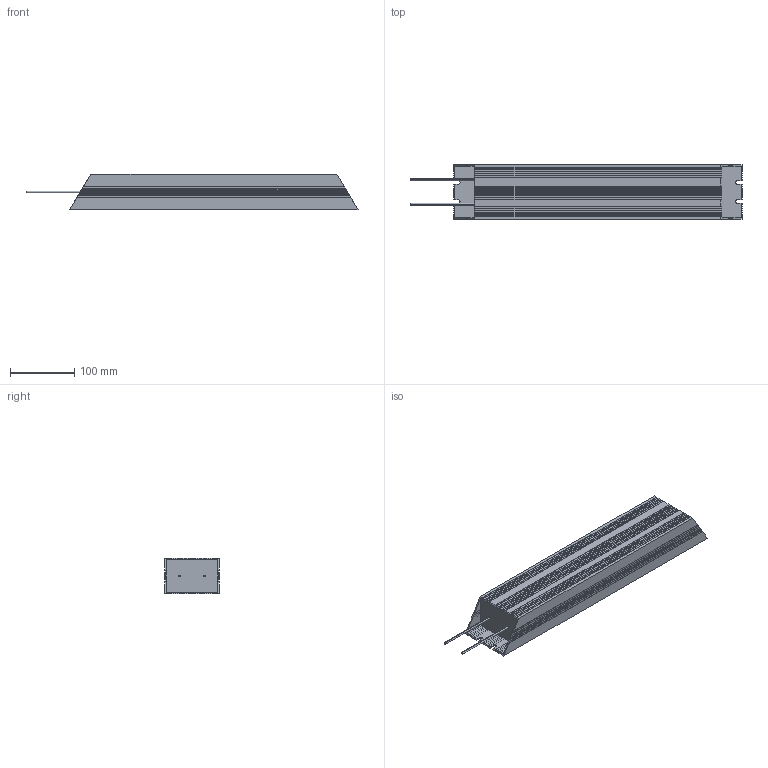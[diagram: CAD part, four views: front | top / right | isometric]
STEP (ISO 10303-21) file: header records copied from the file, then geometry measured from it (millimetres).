
FILE_DESCRIPTION (( 'STEP AP203' ), '1' );
FILE_NAME ('Ðåçèñòîð òîðìîçíîé _ IBRA-8-3000-IP54.STEP', '2025-03-27T13:11:22', ( '' ), ( '' ), 'SwSTEP 2.0', 'SolidWorks 2021', '' );
FILE_SCHEMA (( 'CONFIG_CONTROL_DESIGN' ));
Length unit declared in the file: millimetre
Products named in the file (1): Ðåçèñòîð òîðìîçíîé _ IBRA-8-3000-IP54
Bounding box: 518.15 x 85 x 55 mm (x, y, z)
Volume: 1813268.4 mm3; surface area: 186102.8 mm2
Topology: 1 solids, 1 shells, 272 faces, 804 edges, 536 vertices
Faces by surface type: plane 188, cylinder 84
Entity records: 8985 total; most frequent: CARTESIAN_POINT 2057, ORIENTED_EDGE 1608, DIRECTION 1222, EDGE_CURVE 804, VECTOR 636, LINE 636, VERTEX_POINT 536, AXIS2_PLACEMENT_3D 293
